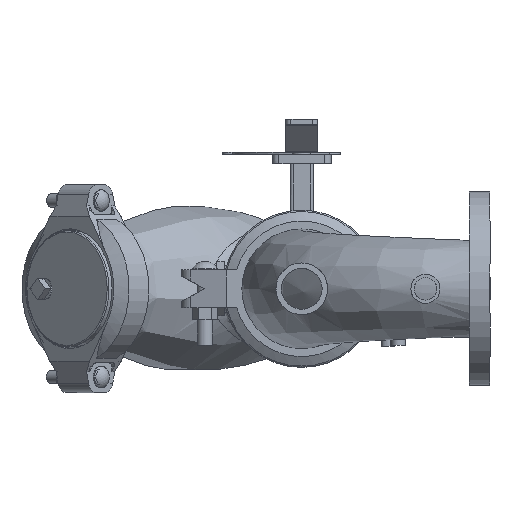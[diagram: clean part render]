
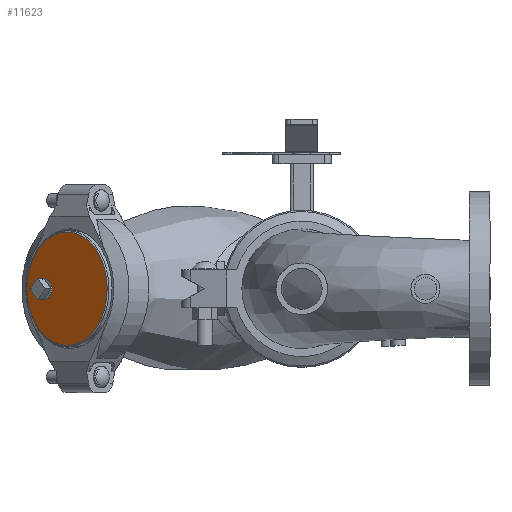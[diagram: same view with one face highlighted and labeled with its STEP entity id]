
A CAD part, front view. The second image highlights one B-rep face of the part: STEP entity #11623.
In plain terms, the highlighted planar face has unit normal (-0.707, -0.707, 0) as drawn and (1, 0, 0) by its records, which use the part's own axes.
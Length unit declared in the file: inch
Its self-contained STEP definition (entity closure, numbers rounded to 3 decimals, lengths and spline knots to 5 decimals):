
#2278=FACE_BOUND('',#3327,.T.);
#2645=FACE_OUTER_BOUND('',#3326,.T.);
#3326=EDGE_LOOP('',(#8535,#8536));
#3327=EDGE_LOOP('',(#8537));
#4014=CIRCLE('',#12804,0.5);
#4022=CIRCLE('',#12815,2.6375);
#4023=CIRCLE('',#12816,2.6375);
#4866=VERTEX_POINT('',#22113);
#4874=VERTEX_POINT('',#22134);
#4875=VERTEX_POINT('',#22135);
#6190=EDGE_CURVE('',#4866,#4866,#4014,.T.);
#6199=EDGE_CURVE('',#4874,#4875,#4022,.T.);
#6200=EDGE_CURVE('',#4875,#4874,#4023,.T.);
#8535=ORIENTED_EDGE('',*,*,#6199,.T.);
#8536=ORIENTED_EDGE('',*,*,#6200,.T.);
#8537=ORIENTED_EDGE('',*,*,#6190,.T.);
#10500=PLANE('',#12818);
#11623=ADVANCED_FACE('',(#2645,#2278),#10500,.T.);
#12804=AXIS2_PLACEMENT_3D('',#22115,#15016,#15017);
#12815=AXIS2_PLACEMENT_3D('',#22136,#15039,#15040);
#12816=AXIS2_PLACEMENT_3D('',#22137,#15041,#15042);
#12818=AXIS2_PLACEMENT_3D('',#22139,#15045,#15046);
#15016=DIRECTION('center_axis',(-1.,0.,0.));
#15017=DIRECTION('ref_axis',(0.,0.,1.));
#15039=DIRECTION('center_axis',(1.,0.,0.));
#15040=DIRECTION('ref_axis',(0.,0.,-1.));
#15041=DIRECTION('center_axis',(1.,0.,0.));
#15042=DIRECTION('ref_axis',(0.,0.,-1.));
#15045=DIRECTION('center_axis',(1.,0.,0.));
#15046=DIRECTION('ref_axis',(0.,0.,-1.));
#22113=CARTESIAN_POINT('',(1.13,1.5,-0.5));
#22115=CARTESIAN_POINT('Origin',(1.13,1.5,0.));
#22134=CARTESIAN_POINT('',(1.13,2.6375,0.));
#22135=CARTESIAN_POINT('',(1.13,0.,2.6375));
#22136=CARTESIAN_POINT('Origin',(1.13,0.,0.));
#22137=CARTESIAN_POINT('Origin',(1.13,0.,0.));
#22139=CARTESIAN_POINT('Origin',(1.13,0.,0.));
